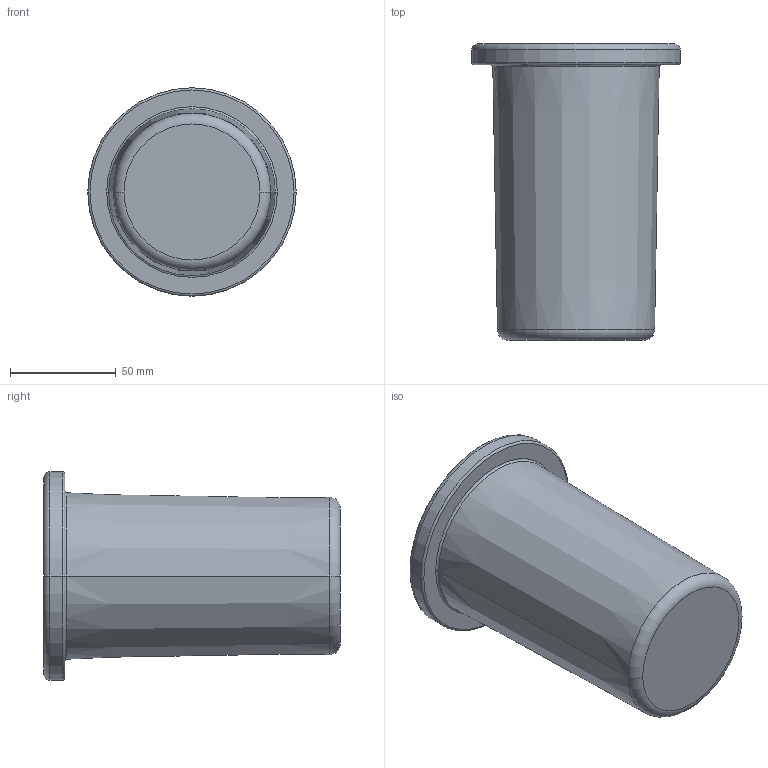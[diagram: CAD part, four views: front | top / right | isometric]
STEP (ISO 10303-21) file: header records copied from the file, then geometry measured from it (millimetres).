
FILE_DESCRIPTION (( 'STEP AP203' ), '1' );
FILE_NAME ('23025A-00-01.STEP', '2022-07-07T01:31:27', ( 'Windows User' ), ( 'P R C' ), 'SwSTEP 2.0', 'SolidWorks 2015', '' );
FILE_SCHEMA (( 'CONFIG_CONTROL_DESIGN' ));
Length unit declared in the file: millimetre
Products named in the file (1): 23025A-00-01
Bounding box: 98.3 x 140 x 98.3 mm (x, y, z)
Volume: 207445.7 mm3; surface area: 74253.7 mm2
Topology: 1 solids, 1 shells, 29 faces, 56 edges, 32 vertices
Faces by surface type: torus 16, plane 5, cylinder 4, cone 4
Entity records: 827 total; most frequent: DIRECTION 164, CARTESIAN_POINT 118, ORIENTED_EDGE 112, AXIS2_PLACEMENT_3D 78, EDGE_CURVE 56, CIRCLE 48, VERTEX_POINT 32, EDGE_LOOP 32
